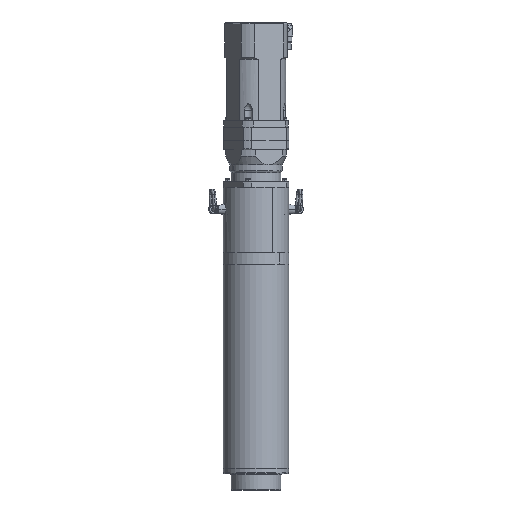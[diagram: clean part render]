
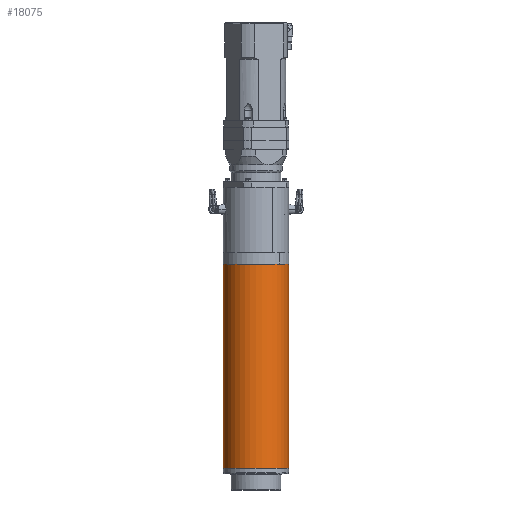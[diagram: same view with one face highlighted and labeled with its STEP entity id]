
A CAD part, front view. The second image highlights one B-rep face of the part: STEP entity #18075.
In plain terms, the highlighted cylindrical face has radius 120 mm (diameter 240 mm), a partial arc.
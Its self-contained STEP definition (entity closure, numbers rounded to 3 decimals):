
#126 = CARTESIAN_POINT ( 'NONE',  ( 0., 0., 20. ) ) ;
#3207 = DIRECTION ( 'NONE',  ( -1., 0., 0. ) ) ;
#3317 = DIRECTION ( 'NONE',  ( 0., 0., -1. ) ) ;
#3944 = AXIS2_PLACEMENT_3D ( 'NONE', #126, #21562, #3207 ) ;
#4942 = AXIS2_PLACEMENT_3D ( 'NONE', #21671, #3317, #24719 ) ;
#5813 = VECTOR ( 'NONE', #15121, 1000. ) ;
#6761 = LINE ( 'NONE', #12048, #5813 ) ;
#7874 = VERTEX_POINT ( 'NONE', #32777 ) ;
#8195 = EDGE_CURVE ( 'NONE', #7874, #27893, #39563, .T. ) ;
#8641 = ORIENTED_EDGE ( 'NONE', *, *, #31721, .T. ) ;
#9083 = ORIENTED_EDGE ( 'NONE', *, *, #19317, .T. ) ;
#11857 = ORIENTED_EDGE ( 'NONE', *, *, #8195, .F. ) ;
#12048 = CARTESIAN_POINT ( 'NONE',  ( -120., 0., 0. ) ) ;
#12554 = FACE_OUTER_BOUND ( 'NONE', #17316, .T. ) ;
#13869 = DIRECTION ( 'NONE',  ( -1., 0., 0. ) ) ;
#14397 = EDGE_CURVE ( 'NONE', #27893, #29222, #21907, .T. ) ;
#15121 = DIRECTION ( 'NONE',  ( 0., 0., -1. ) ) ;
#16289 = DIRECTION ( 'NONE',  ( 0., 0., -1. ) ) ;
#16597 = CIRCLE ( 'NONE', #4942, 120. ) ;
#16832 = VERTEX_POINT ( 'NONE', #19150 ) ;
#16966 = DIRECTION ( 'NONE',  ( 0., 0., -1. ) ) ;
#17316 = EDGE_LOOP ( 'NONE', ( #11857, #8641, #9083, #30395 ) ) ;
#18075 = ADVANCED_FACE ( 'NONE', ( #12554 ), #26968, .T. ) ;
#19150 = CARTESIAN_POINT ( 'NONE',  ( -120., 0., 764. ) ) ;
#19317 = EDGE_CURVE ( 'NONE', #16832, #29222, #6761, .T. ) ;
#21562 = DIRECTION ( 'NONE',  ( 0., 0., -1. ) ) ;
#21671 = CARTESIAN_POINT ( 'NONE',  ( 0., 0., 764. ) ) ;
#21907 = CIRCLE ( 'NONE', #3944, 120. ) ;
#22483 = CARTESIAN_POINT ( 'NONE',  ( 120., 0., 0. ) ) ;
#23534 = CARTESIAN_POINT ( 'NONE',  ( -120., 0., 20. ) ) ;
#24719 = DIRECTION ( 'NONE',  ( -1., 0., 0. ) ) ;
#24945 = CARTESIAN_POINT ( 'NONE',  ( 120., 0., 20. ) ) ;
#25225 = VECTOR ( 'NONE', #16289, 1000. ) ;
#26968 = CYLINDRICAL_SURFACE ( 'NONE', #29392, 120. ) ;
#27893 = VERTEX_POINT ( 'NONE', #24945 ) ;
#29222 = VERTEX_POINT ( 'NONE', #23534 ) ;
#29392 = AXIS2_PLACEMENT_3D ( 'NONE', #35258, #16966, #13869 ) ;
#30395 = ORIENTED_EDGE ( 'NONE', *, *, #14397, .F. ) ;
#31721 = EDGE_CURVE ( 'NONE', #7874, #16832, #16597, .T. ) ;
#32777 = CARTESIAN_POINT ( 'NONE',  ( 120., 0., 764. ) ) ;
#35258 = CARTESIAN_POINT ( 'NONE',  ( 0., 0., 0. ) ) ;
#39563 = LINE ( 'NONE', #22483, #25225 ) ;
